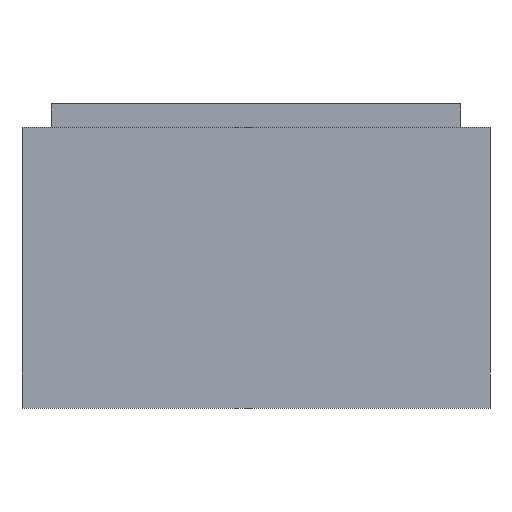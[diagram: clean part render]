
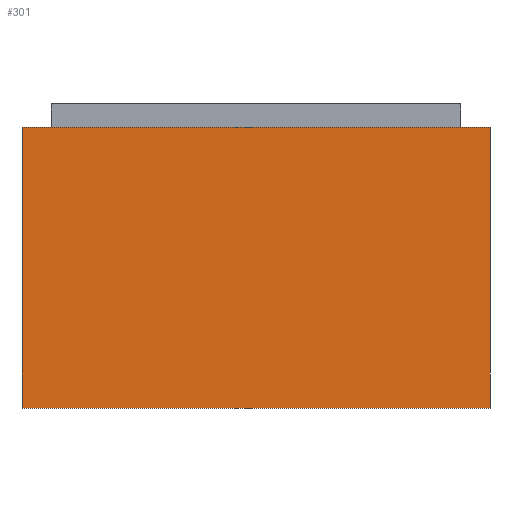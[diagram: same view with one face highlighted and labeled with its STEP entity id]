
A CAD part, left-side view. The second image highlights one B-rep face of the part: STEP entity #301.
In plain terms, the highlighted planar face has unit normal (-1, 0, 0).
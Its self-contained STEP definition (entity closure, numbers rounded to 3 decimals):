
#36=FACE_OUTER_BOUND('',#57,.T.);
#57=EDGE_LOOP('',(#207,#208,#209,#210));
#84=LINE('',#464,#113);
#85=LINE('',#466,#114);
#86=LINE('',#468,#115);
#87=LINE('',#469,#116);
#113=VECTOR('',#371,10.);
#114=VECTOR('',#372,10.);
#115=VECTOR('',#373,10.);
#116=VECTOR('',#374,10.);
#142=VERTEX_POINT('',#462);
#143=VERTEX_POINT('',#463);
#144=VERTEX_POINT('',#465);
#145=VERTEX_POINT('',#467);
#168=EDGE_CURVE('',#142,#143,#84,.T.);
#169=EDGE_CURVE('',#142,#144,#85,.T.);
#170=EDGE_CURVE('',#145,#144,#86,.T.);
#171=EDGE_CURVE('',#143,#145,#87,.T.);
#207=ORIENTED_EDGE('',*,*,#168,.F.);
#208=ORIENTED_EDGE('',*,*,#169,.T.);
#209=ORIENTED_EDGE('',*,*,#170,.F.);
#210=ORIENTED_EDGE('',*,*,#171,.F.);
#285=PLANE('',#336);
#301=ADVANCED_FACE('',(#36),#285,.T.);
#336=AXIS2_PLACEMENT_3D('',#461,#369,#370);
#369=DIRECTION('center_axis',(-1.,0.,0.));
#370=DIRECTION('ref_axis',(0.,-1.,0.));
#371=DIRECTION('',(0.,1.,0.));
#372=DIRECTION('',(0.,0.,1.));
#373=DIRECTION('',(0.,-1.,0.));
#374=DIRECTION('',(0.,0.,1.));
#461=CARTESIAN_POINT('Origin',(-40.,40.,0.));
#462=CARTESIAN_POINT('',(-40.,-40.,0.));
#463=CARTESIAN_POINT('',(-40.,40.,0.));
#464=CARTESIAN_POINT('',(-40.,-40.,0.));
#465=CARTESIAN_POINT('',(-40.,-40.,48.));
#466=CARTESIAN_POINT('',(-40.,-40.,0.));
#467=CARTESIAN_POINT('',(-40.,40.,48.));
#468=CARTESIAN_POINT('',(-40.,-40.,48.));
#469=CARTESIAN_POINT('',(-40.,40.,0.));
